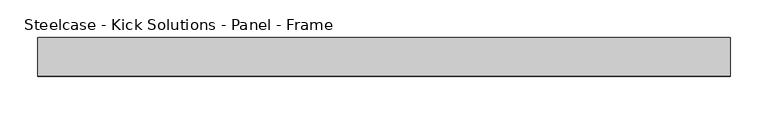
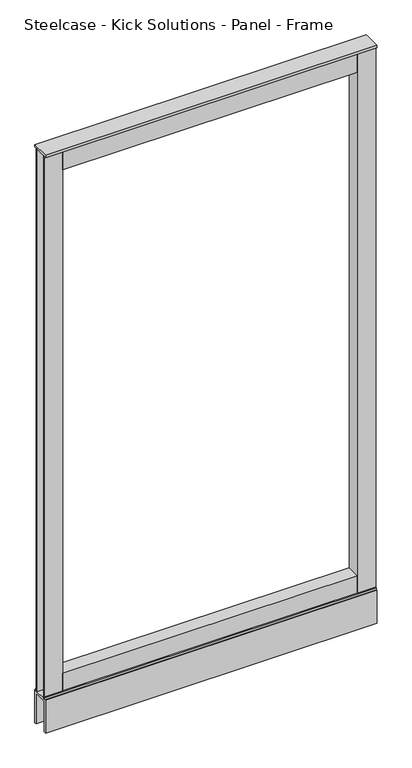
"""IFC4 building model written with IfcOpenShell, lengths in millimetres: furniture geometry, Steelcase - Kick Solutions - Panel - Frame : 66H x 36W."""

from ifc_helpers import new_model, si_unit, frame, origin, place, context, project, spatial, polyline, outline, extrude, source, transform, mapped, element, save


def steelcase_kick_solutions_panel_frame_43ca93a4(model_context):
    return source(origin(), model_context, "Body", "SweptSolid", [
        extrude(outline(polyline([(50.8006646, 6.3506854), (50.8006646, -31.7493123), (0.0, -31.7493123), (0.0, -29.2093123), (48.2606646, -29.2093123), (48.2606646, 3.8106854), (0.0, 3.8106854), (0.0, 6.3506854), (50.8006646, 6.3506854)])), frame((0.0, 0.0, 95.25), z_axis=(0.0, 0.0, 1.0), x_axis=(1.0, 0.0, 0.0)), (0.0, 0.0, 1.0), 1581.15),
        extrude(outline(polyline([(863.6006661, 6.3506854), (914.4, 6.3506854), (914.4, 3.8106854), (866.1393354, 3.8106854), (866.1393354, -29.2093123), (914.4, -29.2093123), (914.4, -31.7493123), (863.6006661, -31.7493123), (863.6006661, 6.3506854)])), frame((0.0, 0.0, 95.25), z_axis=(0.0, 0.0, 1.0), x_axis=(1.0, 0.0, 0.0)), (0.0, 0.0, 1.0), 1581.15),
        extrude(outline(polyline([(6.3506854, 101.600003), (9.5256855, 101.600003), (9.5256855, 95.25), (8.409661, 95.25), (8.409661, 100.2902081), (6.3506854, 100.2902081), (6.3506854, 101.600003)])), frame((0.0, 0.0, 0.0), z_axis=(1.0, 0.0, 0.0), x_axis=(0.0, 1.0, 0.0)), (0.0, 0.0, 1.0), 914.4),
        extrude(outline(polyline([(-34.9243138, 101.600003), (-31.7493123, 101.600003), (-31.7493123, 100.2902081), (-33.8479845, 100.2902081), (-33.8479845, 95.25), (-34.9243138, 95.25), (-34.9243138, 101.600003)])), frame((0.0, 0.0, 0.0), z_axis=(1.0, 0.0, 0.0), x_axis=(0.0, 1.0, 0.0)), (0.0, 0.0, 1.0), 914.4),
        extrude(outline(polyline([(863.6006661, -31.7493123), (50.8006646, -31.7493123), (50.8006646, 6.3506854), (863.6006661, 6.3506854), (863.6006661, -31.7493123)])), frame((0.0, 0.0, 1619.2500242), z_axis=(0.0, 0.0, 1.0), x_axis=(1.0, 0.0, 0.0)), (0.0, 0.0, 1.0), 57.1499758),
        extrude(outline(polyline([(863.6006661, -31.7493123), (50.8006646, -31.7493123), (50.8006646, 6.3506854), (863.6006661, 6.3506854), (863.6006661, -31.7493123)])), frame((0.0, 0.0, 95.25), z_axis=(0.0, 0.0, 1.0), x_axis=(1.0, 0.0, 0.0)), (0.0, 0.0, 1.0), 57.15),
        extrude(outline(polyline([(914.4, 12.7000004), (914.4, -38.1000011), (0.0, -38.1000011), (0.0, 12.7000004), (914.4, 12.7000004)])), frame((0.0, 0.0, 1676.4), z_axis=(0.0, 0.0, 1.0), x_axis=(1.0, 0.0, 0.0)), (0.0, 0.0, 1.0), 6.35),
        extrude(outline(polyline([(-38.1000011, 95.25), (12.7000004, 95.25), (12.7000004, 0.0), (6.3506854, 0.0), (6.3506854, 88.9), (-31.7493123, 88.9), (-31.7493123, 0.0), (-38.1000011, 0.0), (-38.1000011, 95.25)])), frame((0.0, 0.0, 0.0), z_axis=(1.0, 0.0, 0.0), x_axis=(0.0, 1.0, 0.0)), (0.0, 0.0, 1.0), 914.4),
    ])


if __name__ == "__main__":
    model = new_model("IFC4")
    model_context = context("Model", 3, world=origin())
    ifc_project = project(units=[si_unit("LENGTHUNIT", "METRE", prefix="MILLI")], contexts=[model_context])
    site = spatial("IfcSite", under=ifc_project)
    building = spatial("IfcBuilding", under=site)
    placement = place(None, origin())
    steelcase_kick_solutions_panel_frame_shape = steelcase_kick_solutions_panel_frame_43ca93a4(model_context)
    element("IfcFurniture", 1, ObjectType="Steelcase - Kick Solutions - Panel - Frame : 66H x 36W", at=placement, inside=building, context=model_context, shape_type="MappedRepresentation", body=[
        mapped(steelcase_kick_solutions_panel_frame_shape, transform((0.0, 0.0, 0.0), x_axis=(1.0, 0.0, 0.0), y_axis=(0.0, 1.0, 0.0), z_axis=(0.0, 0.0, 1.0))),
    ])
    save(model, "model.ifc")
